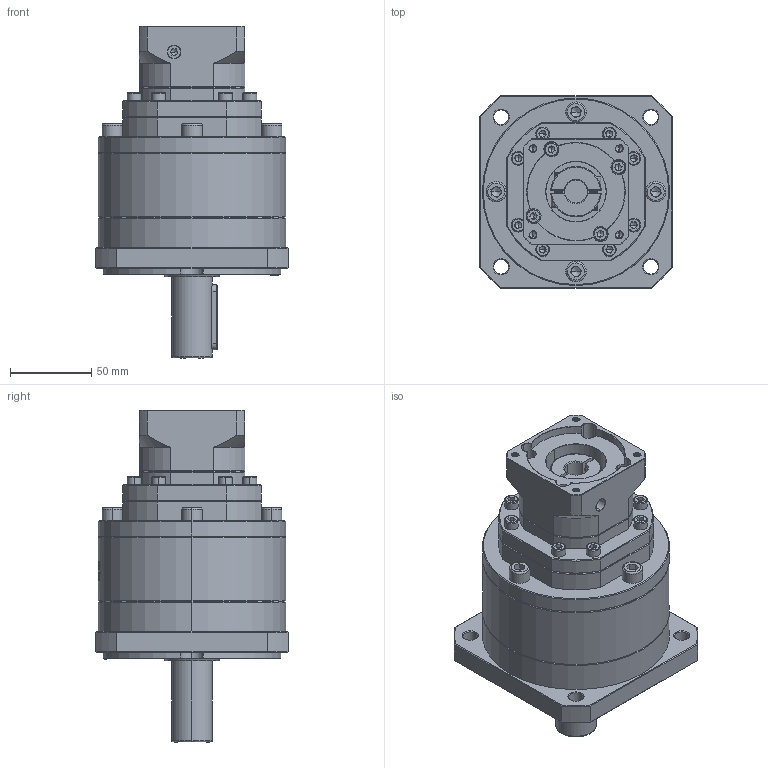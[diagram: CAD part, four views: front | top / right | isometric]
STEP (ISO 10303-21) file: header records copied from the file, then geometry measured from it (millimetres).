
FILE_DESCRIPTION (( 'STEP AP214' ), '1' );
FILE_NAME ('ZF120A-D25-L3-P2-14-60-75-M5.step', '2023-08-27T06:29:25', ( '' ), ( '' ), 'SwSTEP 2.0', 'SolidWorks 2016', '' );
FILE_SCHEMA (( 'AUTOMOTIVE_DESIGN' ));
Length unit declared in the file: millimetre
Products named in the file (1): ZF120A-D25-L3-P2-14-60-75-M5
Bounding box: 118 x 118 x 204 mm (x, y, z)
Volume: 1205646.5 mm3; surface area: 116473.6 mm2
Topology: 7 solids, 7 shells, 2366 faces, 6310 edges, 4050 vertices
Faces by surface type: plane 1179, bspline 435, cylinder 426, cone 304, torus 22
Entity records: 126016 total; most frequent: CARTESIAN_POINT 46444, ORIENTED_EDGE 12512, DIRECTION 9290, EDGE_CURVE 6256, VERTEX_POINT 4050, LINE 3338, VECTOR 3338, AXIS2_PLACEMENT_3D 2976
